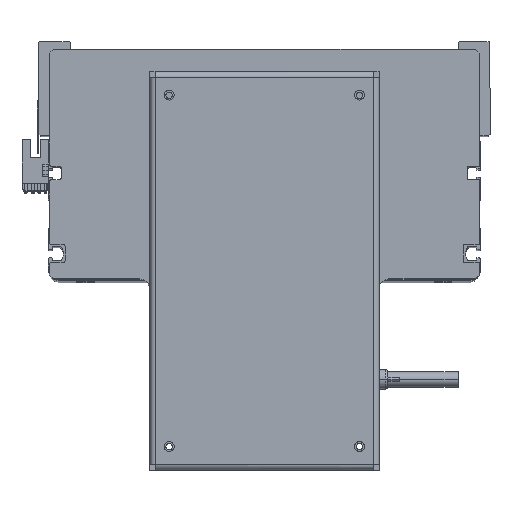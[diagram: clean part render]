
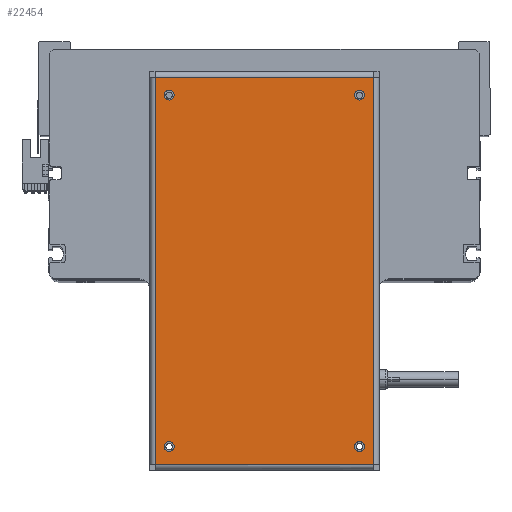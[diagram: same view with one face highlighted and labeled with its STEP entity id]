
A CAD part, top view. The second image highlights one B-rep face of the part: STEP entity #22454.
In plain terms, the highlighted planar face has unit normal (0, 0, 1).
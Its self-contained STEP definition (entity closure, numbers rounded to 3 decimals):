
#168 = VERTEX_POINT ( 'NONE', #4165 ) ;
#575 = EDGE_CURVE ( 'NONE', #168, #23632, #12243, .T. ) ;
#646 = AXIS2_PLACEMENT_3D ( 'NONE', #10786, #34707, #31661 ) ;
#804 = CARTESIAN_POINT ( 'NONE',  ( -89.55, -48.5, 0. ) ) ;
#1103 = DIRECTION ( 'NONE',  ( 1., 0., 0. ) ) ;
#1410 = EDGE_LOOP ( 'NONE', ( #30853, #6837 ) ) ;
#1798 = CIRCLE ( 'NONE', #3172, 2.5 ) ;
#2016 = AXIS2_PLACEMENT_3D ( 'NONE', #12885, #21788, #1103 ) ;
#2095 = EDGE_CURVE ( 'NONE', #18410, #8499, #23294, .T. ) ;
#2584 = CARTESIAN_POINT ( 'NONE',  ( 87.05, 48.5, 0. ) ) ;
#3100 = AXIS2_PLACEMENT_3D ( 'NONE', #35668, #29484, #17781 ) ;
#3172 = AXIS2_PLACEMENT_3D ( 'NONE', #19729, #13559, #34457 ) ;
#3919 = AXIS2_PLACEMENT_3D ( 'NONE', #23188, #26191, #34720 ) ;
#4165 = CARTESIAN_POINT ( 'NONE',  ( 98.65, 55.6, 0. ) ) ;
#4476 = CARTESIAN_POINT ( 'NONE',  ( 92.05, 48.5, 0. ) ) ;
#4662 = DIRECTION ( 'NONE',  ( 0., 0., 1. ) ) ;
#4801 = ORIENTED_EDGE ( 'NONE', *, *, #19412, .F. ) ;
#4837 = VERTEX_POINT ( 'NONE', #16001 ) ;
#5058 = DIRECTION ( 'NONE',  ( -1., 0., 0. ) ) ;
#6057 = DIRECTION ( 'NONE',  ( 0., 0., -1. ) ) ;
#6542 = LINE ( 'NONE', #7933, #20625 ) ;
#6837 = ORIENTED_EDGE ( 'NONE', *, *, #2095, .F. ) ;
#6928 = AXIS2_PLACEMENT_3D ( 'NONE', #804, #36760, #10102 ) ;
#6935 = ORIENTED_EDGE ( 'NONE', *, *, #29665, .F. ) ;
#7067 = VERTEX_POINT ( 'NONE', #4476 ) ;
#7095 = FACE_BOUND ( 'NONE', #8274, .T. ) ;
#7857 = CARTESIAN_POINT ( 'NONE',  ( 98.75, 55.6, 0. ) ) ;
#7933 = CARTESIAN_POINT ( 'NONE',  ( 98.65, -55.6, 0. ) ) ;
#8274 = EDGE_LOOP ( 'NONE', ( #24617, #35726 ) ) ;
#8499 = VERTEX_POINT ( 'NONE', #35173 ) ;
#8612 = VERTEX_POINT ( 'NONE', #2584 ) ;
#9019 = FACE_BOUND ( 'NONE', #16808, .T. ) ;
#9872 = VECTOR ( 'NONE', #34406, 1000. ) ;
#10102 = DIRECTION ( 'NONE',  ( 1., 0., 0. ) ) ;
#10162 = EDGE_CURVE ( 'NONE', #23632, #15324, #13815, .T. ) ;
#10752 = VERTEX_POINT ( 'NONE', #36147 ) ;
#10786 = CARTESIAN_POINT ( 'NONE',  ( 89.55, -48.5, 0. ) ) ;
#11033 = CIRCLE ( 'NONE', #29992, 2.5 ) ;
#11534 = EDGE_LOOP ( 'NONE', ( #17205, #17857, #36271, #28699 ) ) ;
#11544 = CIRCLE ( 'NONE', #3919, 2.5 ) ;
#11706 = CIRCLE ( 'NONE', #3100, 2.5 ) ;
#12137 = CARTESIAN_POINT ( 'NONE',  ( -98.65, 55.6, 0. ) ) ;
#12243 = LINE ( 'NONE', #7857, #25292 ) ;
#12885 = CARTESIAN_POINT ( 'NONE',  ( 89.55, -48.5, 0. ) ) ;
#13559 = DIRECTION ( 'NONE',  ( 0., 0., 1. ) ) ;
#13815 = LINE ( 'NONE', #12137, #25486 ) ;
#14012 = CARTESIAN_POINT ( 'NONE',  ( -98.65, -55.6, 0. ) ) ;
#14744 = CARTESIAN_POINT ( 'NONE',  ( 89.55, 48.5, 0. ) ) ;
#15246 = DIRECTION ( 'NONE',  ( 0., -1., 0. ) ) ;
#15324 = VERTEX_POINT ( 'NONE', #14012 ) ;
#16001 = CARTESIAN_POINT ( 'NONE',  ( -87.05, -48.5, 0. ) ) ;
#16262 = ORIENTED_EDGE ( 'NONE', *, *, #32085, .F. ) ;
#16541 = VERTEX_POINT ( 'NONE', #36220 ) ;
#16808 = EDGE_LOOP ( 'NONE', ( #16262, #4801 ) ) ;
#17205 = ORIENTED_EDGE ( 'NONE', *, *, #10162, .T. ) ;
#17261 = DIRECTION ( 'NONE',  ( 0., 0., 1. ) ) ;
#17781 = DIRECTION ( 'NONE',  ( 1., 0., 0. ) ) ;
#17857 = ORIENTED_EDGE ( 'NONE', *, *, #32847, .T. ) ;
#18367 = FACE_OUTER_BOUND ( 'NONE', #11534, .T. ) ;
#18410 = VERTEX_POINT ( 'NONE', #20767 ) ;
#18842 = FACE_BOUND ( 'NONE', #1410, .T. ) ;
#19273 = CARTESIAN_POINT ( 'NONE',  ( -98.65, 55.6, 0. ) ) ;
#19367 = EDGE_CURVE ( 'NONE', #38383, #168, #6542, .T. ) ;
#19412 = EDGE_CURVE ( 'NONE', #8612, #7067, #1798, .T. ) ;
#19463 = DIRECTION ( 'NONE',  ( 0., 1., 0. ) ) ;
#19729 = CARTESIAN_POINT ( 'NONE',  ( 89.55, 48.5, 0. ) ) ;
#20625 = VECTOR ( 'NONE', #19463, 1000. ) ;
#20650 = DIRECTION ( 'NONE',  ( 1., 0., 0. ) ) ;
#20767 = CARTESIAN_POINT ( 'NONE',  ( 87.05, -48.5, 0. ) ) ;
#21788 = DIRECTION ( 'NONE',  ( 0., 0., 1. ) ) ;
#22454 = ADVANCED_FACE ( 'NONE', ( #27681, #7095, #18842, #9019, #18367 ), #23973, .F. ) ;
#22510 = EDGE_LOOP ( 'NONE', ( #28581, #6935 ) ) ;
#22613 = CARTESIAN_POINT ( 'NONE',  ( -89.55, -48.5, 0. ) ) ;
#23100 = AXIS2_PLACEMENT_3D ( 'NONE', #14744, #17261, #20650 ) ;
#23188 = CARTESIAN_POINT ( 'NONE',  ( -89.55, 48.5, 0. ) ) ;
#23294 = CIRCLE ( 'NONE', #646, 2.5 ) ;
#23476 = EDGE_CURVE ( 'NONE', #16541, #26469, #11706, .T. ) ;
#23632 = VERTEX_POINT ( 'NONE', #19273 ) ;
#23664 = CARTESIAN_POINT ( 'NONE',  ( -87.05, 48.5, 0. ) ) ;
#23973 = PLANE ( 'NONE',  #29271 ) ;
#24617 = ORIENTED_EDGE ( 'NONE', *, *, #28879, .F. ) ;
#25292 = VECTOR ( 'NONE', #5058, 1000. ) ;
#25486 = VECTOR ( 'NONE', #15246, 1000. ) ;
#25593 = DIRECTION ( 'NONE',  ( 1., 0., 0. ) ) ;
#26191 = DIRECTION ( 'NONE',  ( 0., 0., 1. ) ) ;
#26469 = VERTEX_POINT ( 'NONE', #23664 ) ;
#27001 = CIRCLE ( 'NONE', #6928, 2.5 ) ;
#27681 = FACE_BOUND ( 'NONE', #22510, .T. ) ;
#28412 = EDGE_CURVE ( 'NONE', #4837, #10752, #27001, .T. ) ;
#28581 = ORIENTED_EDGE ( 'NONE', *, *, #28412, .F. ) ;
#28699 = ORIENTED_EDGE ( 'NONE', *, *, #575, .T. ) ;
#28879 = EDGE_CURVE ( 'NONE', #26469, #16541, #11544, .T. ) ;
#28926 = CARTESIAN_POINT ( 'NONE',  ( 98.65, -55.6, 0. ) ) ;
#29271 = AXIS2_PLACEMENT_3D ( 'NONE', #32870, #6057, #35889 ) ;
#29484 = DIRECTION ( 'NONE',  ( 0., 0., 1. ) ) ;
#29551 = CIRCLE ( 'NONE', #23100, 2.5 ) ;
#29665 = EDGE_CURVE ( 'NONE', #10752, #4837, #11033, .T. ) ;
#29992 = AXIS2_PLACEMENT_3D ( 'NONE', #22613, #4662, #25593 ) ;
#30516 = CIRCLE ( 'NONE', #2016, 2.5 ) ;
#30853 = ORIENTED_EDGE ( 'NONE', *, *, #30873, .F. ) ;
#30873 = EDGE_CURVE ( 'NONE', #8499, #18410, #30516, .T. ) ;
#31661 = DIRECTION ( 'NONE',  ( 1., 0., 0. ) ) ;
#32085 = EDGE_CURVE ( 'NONE', #7067, #8612, #29551, .T. ) ;
#32788 = LINE ( 'NONE', #34822, #9872 ) ;
#32847 = EDGE_CURVE ( 'NONE', #15324, #38383, #32788, .T. ) ;
#32870 = CARTESIAN_POINT ( 'NONE',  ( 98.75, 58.5, 0. ) ) ;
#34406 = DIRECTION ( 'NONE',  ( 1., 0., 0. ) ) ;
#34457 = DIRECTION ( 'NONE',  ( 1., 0., 0. ) ) ;
#34707 = DIRECTION ( 'NONE',  ( 0., 0., 1. ) ) ;
#34720 = DIRECTION ( 'NONE',  ( 1., 0., 0. ) ) ;
#34822 = CARTESIAN_POINT ( 'NONE',  ( -98.75, -55.6, 0. ) ) ;
#35173 = CARTESIAN_POINT ( 'NONE',  ( 92.05, -48.5, 0. ) ) ;
#35668 = CARTESIAN_POINT ( 'NONE',  ( -89.55, 48.5, 0. ) ) ;
#35726 = ORIENTED_EDGE ( 'NONE', *, *, #23476, .F. ) ;
#35889 = DIRECTION ( 'NONE',  ( -1., 0., 0. ) ) ;
#36147 = CARTESIAN_POINT ( 'NONE',  ( -92.05, -48.5, 0. ) ) ;
#36220 = CARTESIAN_POINT ( 'NONE',  ( -92.05, 48.5, 0. ) ) ;
#36271 = ORIENTED_EDGE ( 'NONE', *, *, #19367, .T. ) ;
#36760 = DIRECTION ( 'NONE',  ( 0., 0., 1. ) ) ;
#38383 = VERTEX_POINT ( 'NONE', #28926 ) ;
